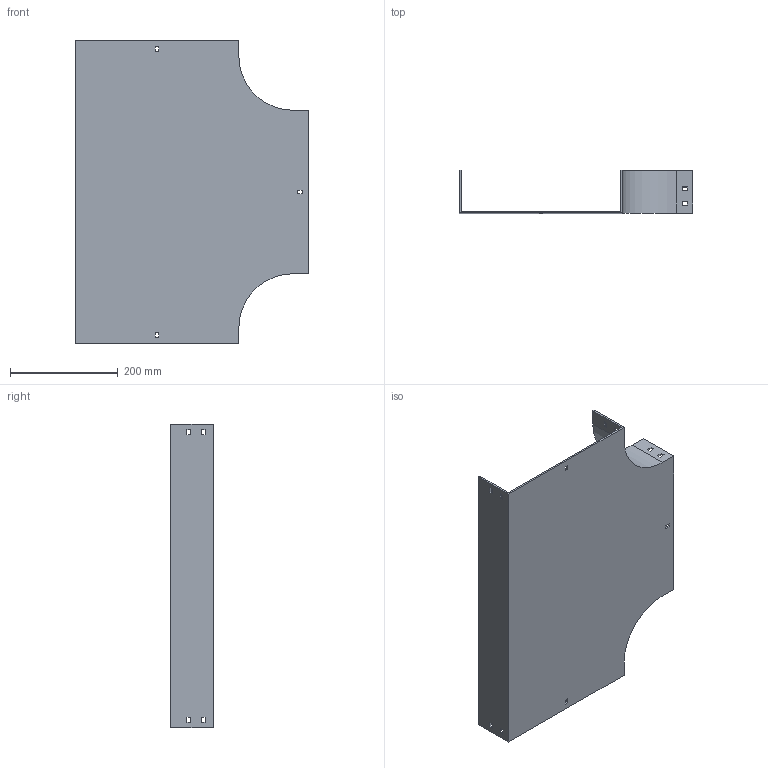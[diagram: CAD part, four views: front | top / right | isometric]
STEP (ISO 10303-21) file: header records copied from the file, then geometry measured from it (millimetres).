
FILE_DESCRIPTION (( 'STEP AP214' ), '1' );
FILE_NAME ('15F1C300.step', '2025-02-21T13:04:48', ( '' ), ( '' ), 'SwSTEP 2.0', 'SolidWorks 2023', '' );
FILE_SCHEMA (( 'AUTOMOTIVE_DESIGN' ));
Length unit declared in the file: millimetre
Products named in the file (1): 15F1C300
Bounding box: 434 x 79 x 564 mm (x, y, z)
Volume: 1015100.3 mm3; surface area: 590081.8 mm2
Topology: 1 solids, 1 shells, 82 faces, 240 edges, 160 vertices
Faces by surface type: plane 78, cylinder 4
Entity records: 2755 total; most frequent: CARTESIAN_POINT 483, ORIENTED_EDGE 480, DIRECTION 414, EDGE_CURVE 240, LINE 232, VECTOR 232, VERTEX_POINT 160, EDGE_LOOP 112
